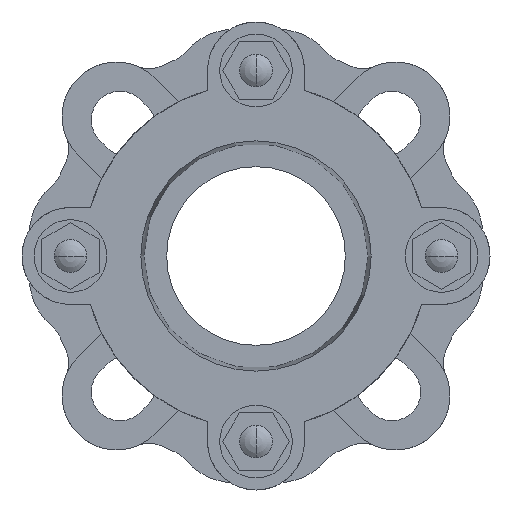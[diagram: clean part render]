
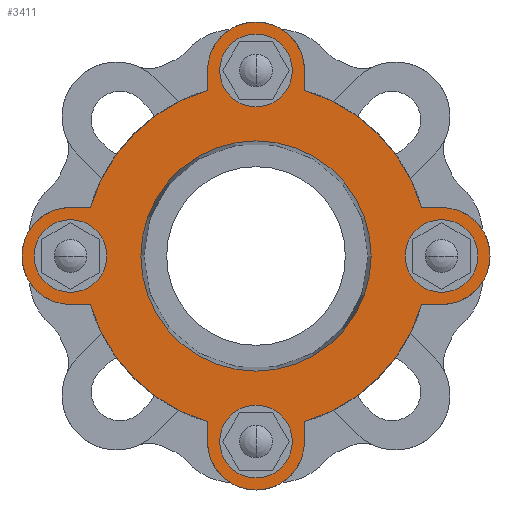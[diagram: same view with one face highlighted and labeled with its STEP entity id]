
A CAD part, left-side view. The second image highlights one B-rep face of the part: STEP entity #3411.
In plain terms, the highlighted planar face has unit normal (-1, 0, 0).
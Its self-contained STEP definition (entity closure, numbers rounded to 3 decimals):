
#97=CARTESIAN_POINT('',(-95.7,0.,-61.25));
#98=DIRECTION('',(-1.,0.,0.));
#99=DIRECTION('',(0.,0.,-1.));
#100=AXIS2_PLACEMENT_3D('',#97,#98,#99);
#102=CARTESIAN_POINT('',(-95.7,0.,-61.25));
#103=DIRECTION('',(-1.,0.,0.));
#104=DIRECTION('',(0.,0.,1.));
#105=AXIS2_PLACEMENT_3D('',#102,#103,#104);
#107=CARTESIAN_POINT('',(-95.7,0.,61.25));
#108=DIRECTION('',(-1.,0.,0.));
#109=DIRECTION('',(0.,0.,1.));
#110=AXIS2_PLACEMENT_3D('',#107,#108,#109);
#112=CARTESIAN_POINT('',(-95.7,0.,61.25));
#113=DIRECTION('',(-1.,0.,0.));
#114=DIRECTION('',(0.,0.,-1.));
#115=AXIS2_PLACEMENT_3D('',#112,#113,#114);
#117=CARTESIAN_POINT('',(-95.7,61.25,0.));
#118=DIRECTION('',(-1.,0.,0.));
#119=DIRECTION('',(0.,1.,0.));
#120=AXIS2_PLACEMENT_3D('',#117,#118,#119);
#122=CARTESIAN_POINT('',(-95.7,61.25,0.));
#123=DIRECTION('',(-1.,0.,0.));
#124=DIRECTION('',(0.,-1.,0.));
#125=AXIS2_PLACEMENT_3D('',#122,#123,#124);
#127=DIRECTION('',(0.,-1.,0.));
#128=VECTOR('',#127,6.542);
#129=CARTESIAN_POINT('',(-95.7,61.25,-16.));
#130=LINE('',#129,#128);
#131=CARTESIAN_POINT('',(-95.7,61.25,0.));
#132=DIRECTION('',(-1.,0.,0.));
#133=DIRECTION('',(0.,0.,1.));
#134=AXIS2_PLACEMENT_3D('',#131,#132,#133);
#136=DIRECTION('',(0.,1.,0.));
#137=VECTOR('',#136,6.542);
#138=CARTESIAN_POINT('',(-95.7,54.708,16.));
#139=LINE('',#138,#137);
#140=CARTESIAN_POINT('',(-95.7,-61.25,0.));
#141=DIRECTION('',(-1.,0.,0.));
#142=DIRECTION('',(0.,-1.,0.));
#143=AXIS2_PLACEMENT_3D('',#140,#141,#142);
#145=CARTESIAN_POINT('',(-95.7,-61.25,0.));
#146=DIRECTION('',(-1.,0.,0.));
#147=DIRECTION('',(0.,1.,0.));
#148=AXIS2_PLACEMENT_3D('',#145,#146,#147);
#534=CARTESIAN_POINT('',(-95.7,0.,0.));
#535=DIRECTION('',(1.,0.,0.));
#536=DIRECTION('',(0.,1.,0.));
#537=AXIS2_PLACEMENT_3D('',#534,#535,#536);
#547=CARTESIAN_POINT('',(-95.7,0.,0.));
#548=DIRECTION('',(-1.,0.,0.));
#549=DIRECTION('',(0.,1.,0.));
#550=AXIS2_PLACEMENT_3D('',#547,#548,#549);
#1231=CARTESIAN_POINT('',(-95.7,0.,0.));
#1232=DIRECTION('',(-1.,0.,0.));
#1233=DIRECTION('',(0.,-0.96,0.281));
#1234=AXIS2_PLACEMENT_3D('',#1231,#1232,#1233);
#1249=CARTESIAN_POINT('',(-95.7,0.,0.));
#1250=DIRECTION('',(-1.,0.,0.));
#1251=DIRECTION('',(0.,0.281,0.96));
#1252=AXIS2_PLACEMENT_3D('',#1249,#1250,#1251);
#1294=CARTESIAN_POINT('',(-95.7,0.,0.));
#1295=DIRECTION('',(-1.,0.,0.));
#1296=DIRECTION('',(0.,0.96,-0.281));
#1297=AXIS2_PLACEMENT_3D('',#1294,#1295,#1296);
#1303=CARTESIAN_POINT('',(-95.7,0.,0.));
#1304=DIRECTION('',(-1.,0.,0.));
#1305=DIRECTION('',(0.,-0.281,-0.96));
#1306=AXIS2_PLACEMENT_3D('',#1303,#1304,#1305);
#1361=DIRECTION('',(0.,-1.,0.));
#1362=VECTOR('',#1361,6.542);
#1363=CARTESIAN_POINT('',(-95.7,-54.708,-16.));
#1364=LINE('',#1363,#1362);
#1373=CARTESIAN_POINT('',(-95.7,-61.25,0.));
#1374=DIRECTION('',(-1.,0.,0.));
#1375=DIRECTION('',(0.,0.,-1.));
#1376=AXIS2_PLACEMENT_3D('',#1373,#1374,#1375);
#1398=DIRECTION('',(0.,1.,0.));
#1399=VECTOR('',#1398,6.542);
#1400=CARTESIAN_POINT('',(-95.7,-61.25,16.));
#1401=LINE('',#1400,#1399);
#1414=DIRECTION('',(0.,0.,1.));
#1415=VECTOR('',#1414,6.542);
#1416=CARTESIAN_POINT('',(-95.7,-16.,54.708));
#1417=LINE('',#1416,#1415);
#1426=CARTESIAN_POINT('',(-95.7,0.,61.25));
#1427=DIRECTION('',(-1.,0.,0.));
#1428=DIRECTION('',(0.,-1.,0.));
#1429=AXIS2_PLACEMENT_3D('',#1426,#1427,#1428);
#1451=DIRECTION('',(0.,0.,-1.));
#1452=VECTOR('',#1451,6.542);
#1453=CARTESIAN_POINT('',(-95.7,16.,61.25));
#1454=LINE('',#1453,#1452);
#2364=DIRECTION('',(0.,0.,-1.));
#2365=VECTOR('',#2364,6.542);
#2366=CARTESIAN_POINT('',(-95.7,16.,-54.708));
#2367=LINE('',#2366,#2365);
#2376=CARTESIAN_POINT('',(-95.7,0.,-61.25));
#2377=DIRECTION('',(-1.,0.,0.));
#2378=DIRECTION('',(0.,1.,0.));
#2379=AXIS2_PLACEMENT_3D('',#2376,#2377,#2378);
#2401=DIRECTION('',(0.,0.,1.));
#2402=VECTOR('',#2401,6.542);
#2403=CARTESIAN_POINT('',(-95.7,-16.,-61.25));
#2404=LINE('',#2403,#2402);
#2508=CARTESIAN_POINT('',(-95.7,38.,0.));
#2510=VERTEX_POINT('',#2508);
#2518=CARTESIAN_POINT('',(-95.7,-38.,0.));
#2520=VERTEX_POINT('',#2518);
#2532=CARTESIAN_POINT('',(-95.7,61.25,16.));
#2533=CARTESIAN_POINT('',(-95.7,61.25,-16.));
#2534=VERTEX_POINT('',#2532);
#2535=VERTEX_POINT('',#2533);
#2537=CARTESIAN_POINT('',(-95.7,54.708,16.));
#2539=VERTEX_POINT('',#2537);
#2540=CARTESIAN_POINT('',(-95.7,54.708,-16.));
#2542=VERTEX_POINT('',#2540);
#2600=CARTESIAN_POINT('',(-95.7,16.,61.25));
#2601=VERTEX_POINT('',#2600);
#2602=CARTESIAN_POINT('',(-95.7,-16.,61.25));
#2603=VERTEX_POINT('',#2602);
#2632=CARTESIAN_POINT('',(-95.7,-61.25,16.));
#2633=VERTEX_POINT('',#2632);
#2634=CARTESIAN_POINT('',(-95.7,-61.25,-16.));
#2635=VERTEX_POINT('',#2634);
#2664=CARTESIAN_POINT('',(-95.7,-16.,-61.25));
#2665=VERTEX_POINT('',#2664);
#2666=CARTESIAN_POINT('',(-95.7,16.,-61.25));
#2667=VERTEX_POINT('',#2666);
#2676=CARTESIAN_POINT('',(-95.7,-16.,54.708));
#2677=VERTEX_POINT('',#2676);
#2678=CARTESIAN_POINT('',(-95.7,16.,54.708));
#2679=VERTEX_POINT('',#2678);
#2688=CARTESIAN_POINT('',(-95.7,-54.708,-16.));
#2689=VERTEX_POINT('',#2688);
#2690=CARTESIAN_POINT('',(-95.7,-54.708,16.));
#2691=VERTEX_POINT('',#2690);
#2702=CARTESIAN_POINT('',(-95.7,16.,-54.708));
#2703=VERTEX_POINT('',#2702);
#2704=CARTESIAN_POINT('',(-95.7,-16.,-54.708));
#2705=VERTEX_POINT('',#2704);
#3012=CARTESIAN_POINT('',(-95.7,73.25,0.));
#3013=CARTESIAN_POINT('',(-95.7,49.25,0.));
#3014=VERTEX_POINT('',#3012);
#3015=VERTEX_POINT('',#3013);
#3166=CARTESIAN_POINT('',(-95.7,0.,73.25));
#3167=VERTEX_POINT('',#3166);
#3168=CARTESIAN_POINT('',(-95.7,0.,49.25));
#3169=VERTEX_POINT('',#3168);
#3178=CARTESIAN_POINT('',(-95.7,-73.25,0.));
#3179=VERTEX_POINT('',#3178);
#3180=CARTESIAN_POINT('',(-95.7,-49.25,0.));
#3181=VERTEX_POINT('',#3180);
#3190=CARTESIAN_POINT('',(-95.7,0.,-73.25));
#3191=VERTEX_POINT('',#3190);
#3192=CARTESIAN_POINT('',(-95.7,0.,-49.25));
#3193=VERTEX_POINT('',#3192);
#3343=CARTESIAN_POINT('',(-95.7,0.,0.));
#3344=DIRECTION('',(1.,0.,0.));
#3345=DIRECTION('',(0.,-1.,0.));
#3346=AXIS2_PLACEMENT_3D('',#3343,#3344,#3345);
#3347=PLANE('',#3346);
#3349=ORIENTED_EDGE('',*,*,#3348,.F.);
#3351=ORIENTED_EDGE('',*,*,#3350,.F.);
#3353=ORIENTED_EDGE('',*,*,#3352,.F.);
#3355=ORIENTED_EDGE('',*,*,#3354,.F.);
#3357=ORIENTED_EDGE('',*,*,#3356,.F.);
#3359=ORIENTED_EDGE('',*,*,#3358,.F.);
#3361=ORIENTED_EDGE('',*,*,#3360,.F.);
#3363=ORIENTED_EDGE('',*,*,#3362,.F.);
#3365=ORIENTED_EDGE('',*,*,#3364,.F.);
#3367=ORIENTED_EDGE('',*,*,#3366,.F.);
#3369=ORIENTED_EDGE('',*,*,#3368,.F.);
#3371=ORIENTED_EDGE('',*,*,#3370,.F.);
#3373=ORIENTED_EDGE('',*,*,#3372,.F.);
#3375=ORIENTED_EDGE('',*,*,#3374,.F.);
#3377=ORIENTED_EDGE('',*,*,#3376,.F.);
#3379=ORIENTED_EDGE('',*,*,#3378,.F.);
#3380=EDGE_LOOP('',(#3349,#3351,#3353,#3355,#3357,#3359,#3361,#3363,#3365,#3367,
#3369,#3371,#3373,#3375,#3377,#3379));
#3381=FACE_OUTER_BOUND('',#3380,.F.);
#3383=ORIENTED_EDGE('',*,*,#3382,.T.);
#3385=ORIENTED_EDGE('',*,*,#3384,.T.);
#3386=EDGE_LOOP('',(#3383,#3385));
#3387=FACE_BOUND('',#3386,.F.);
#3389=ORIENTED_EDGE('',*,*,#3388,.T.);
#3391=ORIENTED_EDGE('',*,*,#3390,.T.);
#3392=EDGE_LOOP('',(#3389,#3391));
#3393=FACE_BOUND('',#3392,.F.);
#3395=ORIENTED_EDGE('',*,*,#3394,.F.);
#3397=ORIENTED_EDGE('',*,*,#3396,.T.);
#3398=EDGE_LOOP('',(#3395,#3397));
#3399=FACE_BOUND('',#3398,.F.);
#3401=ORIENTED_EDGE('',*,*,#3400,.T.);
#3403=ORIENTED_EDGE('',*,*,#3402,.T.);
#3404=EDGE_LOOP('',(#3401,#3403));
#3405=FACE_BOUND('',#3404,.F.);
#3406=ORIENTED_EDGE('',*,*,#3333,.T.);
#3408=ORIENTED_EDGE('',*,*,#3407,.T.);
#3409=EDGE_LOOP('',(#3406,#3408));
#3410=FACE_BOUND('',#3409,.F.);
#3411=ADVANCED_FACE('',(#3381,#3387,#3393,#3399,#3405,#3410),#3347,.F.);
#101=CIRCLE('',#100,12.);
#106=CIRCLE('',#105,12.);
#111=CIRCLE('',#110,12.);
#116=CIRCLE('',#115,12.);
#121=CIRCLE('',#120,12.);
#126=CIRCLE('',#125,12.);
#135=CIRCLE('',#134,16.);
#144=CIRCLE('',#143,12.);
#149=CIRCLE('',#148,12.);
#538=CIRCLE('',#537,38.);
#551=CIRCLE('',#550,38.);
#1235=CIRCLE('',#1234,57.);
#1253=CIRCLE('',#1252,57.);
#1298=CIRCLE('',#1297,57.);
#1307=CIRCLE('',#1306,57.);
#1377=CIRCLE('',#1376,16.);
#1430=CIRCLE('',#1429,16.);
#2380=CIRCLE('',#2379,16.);
#3333=EDGE_CURVE('',#3179,#3181,#144,.T.);
#3348=EDGE_CURVE('',#2705,#2689,#1307,.T.);
#3350=EDGE_CURVE('',#2665,#2705,#2404,.T.);
#3352=EDGE_CURVE('',#2667,#2665,#2380,.T.);
#3354=EDGE_CURVE('',#2703,#2667,#2367,.T.);
#3356=EDGE_CURVE('',#2542,#2703,#1298,.T.);
#3358=EDGE_CURVE('',#2535,#2542,#130,.T.);
#3360=EDGE_CURVE('',#2534,#2535,#135,.T.);
#3362=EDGE_CURVE('',#2539,#2534,#139,.T.);
#3364=EDGE_CURVE('',#2679,#2539,#1253,.T.);
#3366=EDGE_CURVE('',#2601,#2679,#1454,.T.);
#3368=EDGE_CURVE('',#2603,#2601,#1430,.T.);
#3370=EDGE_CURVE('',#2677,#2603,#1417,.T.);
#3372=EDGE_CURVE('',#2691,#2677,#1235,.T.);
#3374=EDGE_CURVE('',#2633,#2691,#1401,.T.);
#3376=EDGE_CURVE('',#2635,#2633,#1377,.T.);
#3378=EDGE_CURVE('',#2689,#2635,#1364,.T.);
#3382=EDGE_CURVE('',#3167,#3169,#111,.T.);
#3384=EDGE_CURVE('',#3169,#3167,#116,.T.);
#3388=EDGE_CURVE('',#3014,#3015,#121,.T.);
#3390=EDGE_CURVE('',#3015,#3014,#126,.T.);
#3394=EDGE_CURVE('',#2510,#2520,#538,.T.);
#3396=EDGE_CURVE('',#2510,#2520,#551,.T.);
#3400=EDGE_CURVE('',#3191,#3193,#101,.T.);
#3402=EDGE_CURVE('',#3193,#3191,#106,.T.);
#3407=EDGE_CURVE('',#3181,#3179,#149,.T.);
